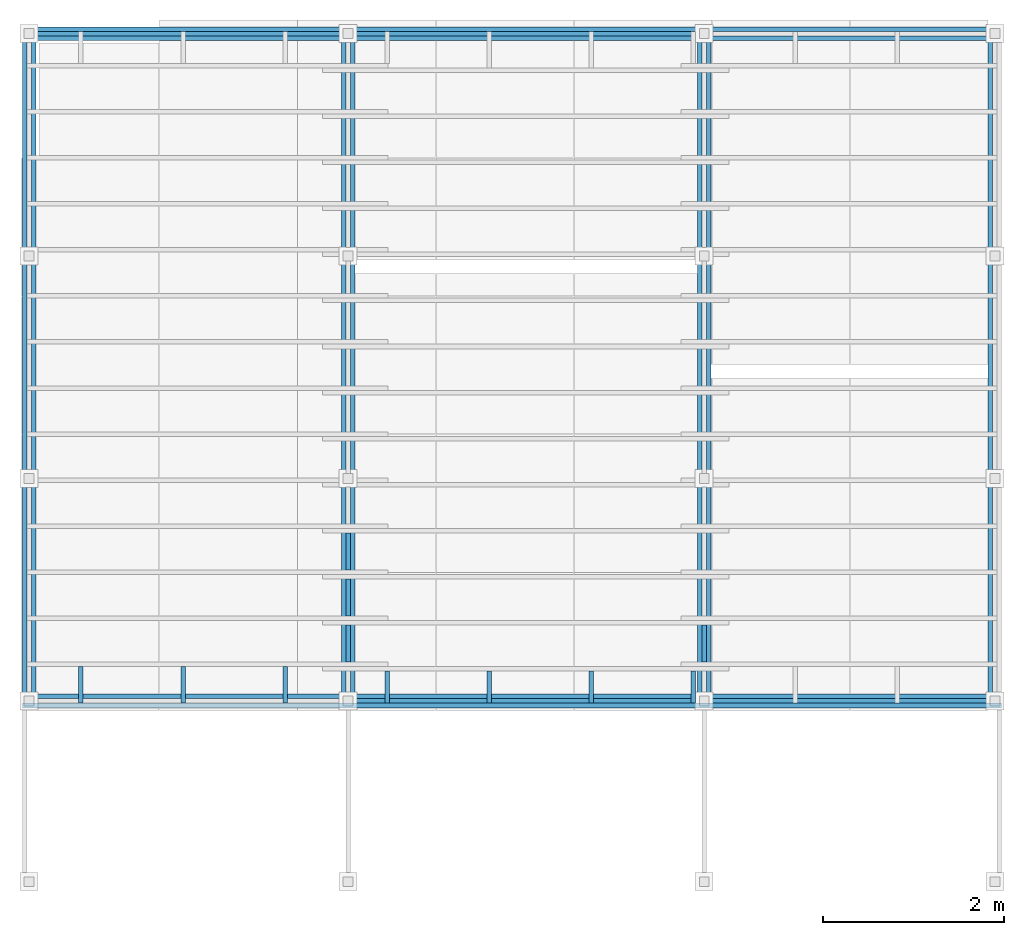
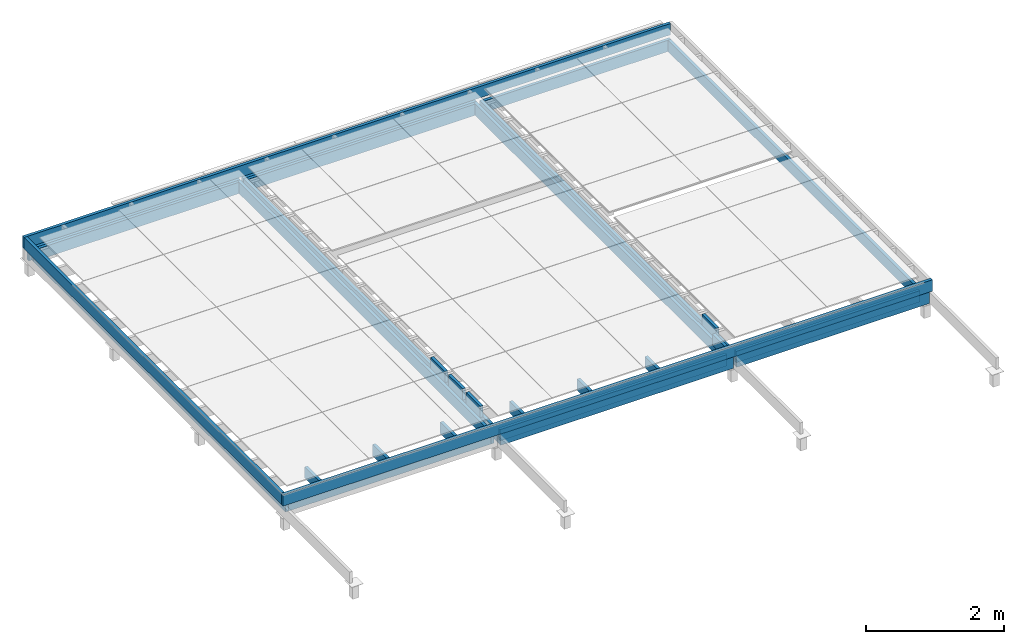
# One storey, part 4 of 5: 32 beams.
"""IFC4 building model written with IfcOpenShell, lengths in millimetres."""

from ifc_helpers import new_model, si_unit, derived_unit, frame, origin_with_axes, place, context, subcontext, project, spatial, polygons, source, transform, mapped, material, type_object, element, save


model = new_model("IFC4")

# Units and contexts
model_context = context("Model", 3, precision=1e-06, world=origin_with_axes())
body_context = subcontext(model_context, "Body", "Model", "MODEL_VIEW")
ifc_project = project(units=[si_unit("LENGTHUNIT", "METRE", prefix="MILLI"), si_unit("AREAUNIT", "SQUARE_METRE"), si_unit("VOLUMEUNIT", "CUBIC_METRE"), si_unit("MASSUNIT", "GRAM", prefix="KILO"), si_unit("ELECTRICVOLTAGEUNIT", "VOLT", prefix="KILO"), si_unit("THERMODYNAMICTEMPERATUREUNIT", "DEGREE_CELSIUS"), si_unit("PRESSUREUNIT", "PASCAL", prefix="MEGA"), si_unit("PLANEANGLEUNIT", "RADIAN"), derived_unit("THERMALCONDUCTANCEUNIT", [(si_unit("POWERUNIT", "WATT"), 1), (si_unit("LENGTHUNIT", "METRE"), -1), (si_unit("THERMODYNAMICTEMPERATUREUNIT", "KELVIN"), -1)]), derived_unit("MASSDENSITYUNIT", [(si_unit("MASSUNIT", "GRAM", prefix="KILO"), 1), (si_unit("VOLUMEUNIT", "CUBIC_METRE"), -1)])], contexts=[model_context])

# Site, building, storey
site_placement = place(None, origin_with_axes())
site = spatial("IfcSite", under=ifc_project, at=site_placement, CompositionType="ELEMENT")
building_placement = place(site_placement, origin_with_axes())
building = spatial("IfcBuilding", under=site, at=building_placement, CompositionType="ELEMENT")
storey_placement = place(building_placement, origin_with_axes())
storey = spatial("IfcBuildingStorey", under=building, at=storey_placement, Name="Ниже 0.00", CompositionType="ELEMENT", Elevation=0.0)

# Beams
ifc_material_1 = material(Name="Древесина светлая")
beam_type = type_object("IfcBeamType", Name="Доска 50х200", PredefinedType="BEAM")
shared_shape_1 = source(origin_with_axes(), body_context, "Body", "Tessellation", [
    polygons([(0.0, -200.0, 0.0), (-50.0, -200.0, 0.0), (-50.0, -200.0, -3532.5), (0.0, -200.0, -3532.5), (-50.0, 0.0, 0.0), (-50.0, 0.0, -3532.5), (0.0, 0.0, 0.0), (0.0, 0.0, -3532.5)], [[[1, 2, 3, 4]], [[2, 5, 6, 3]], [[5, 7, 8, 6]], [[7, 1, 4, 8]], [[4, 3, 6, 8]], [[1, 7, 5, 2]]], closed=True),
])
beam_1_placement = place(storey_placement, frame((3582.500000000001, 7489.999999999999, -200.0), z_axis=(1.0, 0.0, 0.0), x_axis=(0.0, 0.0, 1.0)))
element("IfcBeam", 1, at=beam_1_placement, inside=storey, type_object=beam_type, material=ifc_material_1, Name="Балка - Доска 50х200", context=body_context, shape_type="MappedRepresentation", body=[
    mapped(shared_shape_1, transform((0.0, 0.0, 0.0), x_axis=(0.0, -1.0, 0.0), y_axis=(1.0, 0.0, 0.0), z_axis=(0.0, 0.0, 1.0), scale=1.0)),
])
shared_shape_2 = source(origin_with_axes(), body_context, "Body", "Tessellation", [
    polygons([(0.0, -200.0, 0.0), (-50.0, -200.0, 0.0), (-50.0, -200.0, -3892.5000000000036), (0.0, -200.0, -3892.5000000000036), (-50.0, 0.0, 0.0), (-50.0, 0.0, -3892.5000000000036), (0.0, 0.0, 0.0), (0.0, 0.0, -3892.5000000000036)], [[[1, 2, 3, 4]], [[2, 5, 6, 3]], [[5, 7, 8, 6]], [[7, 1, 4, 8]], [[4, 3, 6, 8]], [[1, 7, 5, 2]]], closed=True),
])
beam_2_placement = place(storey_placement, frame((7525.0000000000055, 7489.999999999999, -200.0), z_axis=(1.0, 0.0, 0.0), x_axis=(0.0, 0.0, 1.0)))
element("IfcBeam", 2, at=beam_2_placement, inside=storey, type_object=beam_type, material=ifc_material_1, Name="Балка - Доска 50х200", context=body_context, shape_type="MappedRepresentation", body=[
    mapped(shared_shape_2, transform((0.0, 0.0, 0.0), x_axis=(0.0, -1.0, 0.0), y_axis=(1.0, 0.0, 0.0), z_axis=(0.0, 0.0, 1.0), scale=1.0)),
])
shared_shape_3 = source(origin_with_axes(), body_context, "Body", "Tessellation", [
    polygons([(7525.0000000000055, 100.00000000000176, -400.0), (7525.0000000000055, 100.00000000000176, -200.0), (7525.0000000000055, 50.00000000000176, -200.0), (7525.0000000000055, 50.00000000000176, -400.0), (3632.500000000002, 100.00000000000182, -400.0), (3632.500000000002, 100.00000000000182, -200.0), (3632.500000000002, 50.00000000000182, -200.0), (3632.500000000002, 50.00000000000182, -400.0)], [[[1, 2, 3, 4]], [[2, 1, 5, 6]], [[3, 2, 6, 7]], [[4, 3, 7, 8]], [[1, 4, 8, 5]], [[5, 8, 7, 6]]], closed=True),
])
beam_3_placement = place(storey_placement, frame((7525.0000000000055, 100.00000000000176, -200.0), z_axis=(1.0, 0.0, 0.0), x_axis=(0.0, 0.0, 1.0)))
element("IfcBeam", 3, at=beam_3_placement, inside=storey, type_object=beam_type, material=ifc_material_1, Name="Балка - Доска 50х200", context=body_context, shape_type="MappedRepresentation", body=[
    mapped(shared_shape_3, transform((200.0, 100.00000000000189, -7525.0000000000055), x_axis=(0.0, 0.0, 1.0), y_axis=(0.0, -1.0, 0.0), z_axis=(1.0, 0.0, 0.0), scale=1.0)),
])
shared_shape_4 = source(origin_with_axes(), body_context, "Body", "Tessellation", [
    polygons([(0.0, -200.0, 0.0), (-50.0, -200.0, 0.0), (-50.0, -200.0, -3169.9999999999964), (0.0, -200.0, -3169.9999999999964), (-50.0, 0.0, 0.0), (-50.0, 0.0, -3169.9999999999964), (0.0, 0.0, 0.0), (0.0, 0.0, -3169.9999999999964)], [[[1, 2, 3, 4]], [[2, 5, 6, 3]], [[5, 7, 8, 6]], [[7, 1, 4, 8]], [[4, 3, 6, 8]], [[1, 7, 5, 2]]], closed=True),
])
beam_4_placement = place(storey_placement, frame((10745.000000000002, 100.00000000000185, -200.0), z_axis=(1.0, 0.0, 0.0), x_axis=(0.0, 0.0, 1.0)))
element("IfcBeam", 4, at=beam_4_placement, inside=storey, type_object=beam_type, material=ifc_material_1, Name="Балка - Доска 50х200", context=body_context, shape_type="MappedRepresentation", body=[
    mapped(shared_shape_4, transform((0.0, 0.0, 0.0), x_axis=(0.0, -1.0, 0.0), y_axis=(1.0, 0.0, 0.0), z_axis=(0.0, 0.0, 1.0), scale=1.0)),
])
shared_shape_5 = source(origin_with_axes(), body_context, "Body", "Tessellation", [
    polygons([(7525.0000000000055, 100.00000000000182, -400.0), (7525.0000000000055, 7439.999999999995, -400.0), (7525.0000000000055, 7439.999999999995, -200.0), (7525.0000000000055, 100.00000000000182, -200.0), (7475.0000000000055, 100.00000000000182, -200.0), (7475.0000000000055, 100.00000000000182, -400.0), (7475.0000000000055, 7439.999999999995, -400.0), (7475.0000000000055, 7439.999999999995, -200.0)], [[[1, 2, 3, 4]], [[4, 5, 6, 1]], [[1, 6, 7, 2]], [[2, 7, 8, 3]], [[5, 4, 3, 8]], [[6, 5, 8, 7]]], closed=True),
])
beam_5_placement = place(storey_placement, frame((7525.0000000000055, 100.00000000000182, -200.0), z_axis=(0.0, -1.0, 0.0), x_axis=(0.0, 0.0, 1.0)))
element("IfcBeam", 5, at=beam_5_placement, inside=storey, type_object=beam_type, material=ifc_material_1, Name="Балка - Доска 50х200", context=body_context, shape_type="MappedRepresentation", body=[
    mapped(shared_shape_5, transform((199.99999999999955, 7525.0000000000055, 100.00000000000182), x_axis=(0.0, -1.0, 0.0), y_axis=(0.0, 0.0, -1.0), z_axis=(1.0, 0.0, 0.0), scale=1.0)),
])
shared_shape_6 = source(origin_with_axes(), body_context, "Body", "Tessellation", [
    polygons([(3582.500000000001, 100.00000000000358, -400.0), (3582.500000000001, 7439.999999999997, -400.0), (3582.500000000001, 7439.999999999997, -200.0), (3582.500000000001, 100.00000000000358, -200.0), (3532.500000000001, 100.00000000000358, -200.0), (3532.500000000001, 100.00000000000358, -400.0), (3532.500000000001, 7439.999999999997, -400.0), (3532.500000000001, 7439.999999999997, -200.0)], [[[1, 2, 3, 4]], [[4, 5, 6, 1]], [[1, 6, 7, 2]], [[2, 7, 8, 3]], [[5, 4, 3, 8]], [[6, 5, 8, 7]]], closed=True),
])
beam_6_placement = place(storey_placement, frame((3582.500000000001, 100.00000000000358, -200.0), z_axis=(0.0, -1.0, 0.0), x_axis=(0.0, 0.0, 1.0)))
element("IfcBeam", 6, at=beam_6_placement, inside=storey, type_object=beam_type, material=ifc_material_1, Name="Балка - Доска 50х200", context=body_context, shape_type="MappedRepresentation", body=[
    mapped(shared_shape_6, transform((199.99999999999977, 3582.500000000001, 100.00000000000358), x_axis=(0.0, -1.0, 0.0), y_axis=(0.0, 0.0, -1.0), z_axis=(1.0, 0.0, 0.0), scale=1.0)),
])
shared_shape_7 = source(origin_with_axes(), body_context, "Body", "Tessellation", [
    polygons([(3682.500000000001, 100.00000000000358, -400.0), (3682.500000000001, 100.00000000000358, -200.0), (3632.500000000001, 100.00000000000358, -200.0), (3632.500000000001, 100.00000000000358, -400.0), (3682.500000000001, 7439.999999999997, -400.0), (3682.500000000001, 7439.999999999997, -200.0), (3632.500000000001, 7439.999999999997, -200.0), (3632.500000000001, 7439.999999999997, -400.0)], [[[1, 2, 3, 4]], [[2, 1, 5, 6]], [[3, 2, 6, 7]], [[4, 3, 7, 8]], [[1, 4, 8, 5]], [[5, 8, 7, 6]]], closed=True),
])
beam_7_placement = place(storey_placement, frame((3682.500000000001, 100.00000000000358, -200.0), z_axis=(0.0, -1.0, 0.0), x_axis=(0.0, 0.0, 1.0)))
element("IfcBeam", 7, at=beam_7_placement, inside=storey, type_object=beam_type, material=ifc_material_1, Name="Балка - Доска 50х200", context=body_context, shape_type="MappedRepresentation", body=[
    mapped(shared_shape_7, transform((199.99999999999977, 3682.500000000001, 100.00000000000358), x_axis=(0.0, -1.0, 0.0), y_axis=(0.0, 0.0, -1.0), z_axis=(1.0, 0.0, 0.0), scale=1.0)),
])
shared_shape_8 = source(origin_with_axes(), body_context, "Body", "Tessellation", [
    polygons([(7625.0000000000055, 100.00000000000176, -400.0), (7625.0000000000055, 100.00000000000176, -200.0), (7575.0000000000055, 100.00000000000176, -200.0), (7575.0000000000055, 100.00000000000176, -400.0), (7625.0000000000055, 7439.999999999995, -400.0), (7625.0000000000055, 7439.999999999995, -200.0), (7575.0000000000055, 7439.999999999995, -200.0), (7575.0000000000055, 7439.999999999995, -400.0)], [[[1, 2, 3, 4]], [[2, 1, 5, 6]], [[3, 2, 6, 7]], [[4, 3, 7, 8]], [[1, 4, 8, 5]], [[5, 8, 7, 6]]], closed=True),
])
beam_8_placement = place(storey_placement, frame((7625.0000000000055, 100.00000000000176, -200.0), z_axis=(0.0, -1.0, 0.0), x_axis=(0.0, 0.0, 1.0)))
element("IfcBeam", 8, at=beam_8_placement, inside=storey, type_object=beam_type, material=ifc_material_1, Name="Балка - Доска 50х200", context=body_context, shape_type="MappedRepresentation", body=[
    mapped(shared_shape_8, transform((199.99999999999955, 7625.0000000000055, 100.00000000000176), x_axis=(0.0, -1.0, 0.0), y_axis=(0.0, 0.0, -1.0), z_axis=(1.0, 0.0, 0.0), scale=1.0)),
])
shared_shape_9 = source(origin_with_axes(), body_context, "Body", "Tessellation", [
    polygons([(0.0, -200.0, 0.0), (-50.0, -200.0, 0.0), (-50.0, -200.0, -3119.9999999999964), (0.0, -200.0, -3119.9999999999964), (-50.0, 0.0, 0.0), (-50.0, 0.0, -3119.9999999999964), (0.0, 0.0, 0.0), (0.0, 0.0, -3119.9999999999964)], [[[1, 2, 3, 4]], [[2, 5, 6, 3]], [[5, 7, 8, 6]], [[7, 1, 4, 8]], [[4, 3, 6, 8]], [[1, 7, 5, 2]]], closed=True),
])
beam_9_placement = place(storey_placement, frame((10745.000000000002, 7439.999999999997, -200.0), z_axis=(1.0, 0.0, 0.0), x_axis=(0.0, 0.0, 1.0)))
element("IfcBeam", 9, at=beam_9_placement, inside=storey, type_object=beam_type, material=ifc_material_1, Name="Балка - Доска 50х200", context=body_context, shape_type="MappedRepresentation", body=[
    mapped(shared_shape_9, transform((0.0, 0.0, 0.0), x_axis=(0.0, -1.0, 0.0), y_axis=(1.0, 0.0, 0.0), z_axis=(0.0, 0.0, 1.0), scale=1.0)),
])
shared_shape_10 = source(origin_with_axes(), body_context, "Body", "Tessellation", [
    polygons([(0.0, -200.0, 0.0), (-50.0, -200.0, 0.0), (-50.0, -200.0, -3792.5000000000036), (0.0, -200.0, -3792.5000000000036), (-50.0, 0.0, 0.0), (-50.0, 0.0, -3792.5000000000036), (0.0, 0.0, 0.0), (0.0, 0.0, -3792.5000000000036)], [[[1, 2, 3, 4]], [[2, 5, 6, 3]], [[5, 7, 8, 6]], [[7, 1, 4, 8]], [[4, 3, 6, 8]], [[1, 7, 5, 2]]], closed=True),
])
beam_10_placement = place(storey_placement, frame((7475.0000000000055, 7439.999999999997, -200.0), z_axis=(1.0, 0.0, 0.0), x_axis=(0.0, 0.0, 1.0)))
element("IfcBeam", 10, at=beam_10_placement, inside=storey, type_object=beam_type, material=ifc_material_1, Name="Балка - Доска 50х200", context=body_context, shape_type="MappedRepresentation", body=[
    mapped(shared_shape_10, transform((0.0, 0.0, 0.0), x_axis=(0.0, -1.0, 0.0), y_axis=(1.0, 0.0, 0.0), z_axis=(0.0, 0.0, 1.0), scale=1.0)),
])
shared_shape_11 = source(origin_with_axes(), body_context, "Body", "Tessellation", [
    polygons([(0.0, -200.0, 0.0), (-50.0, -200.0, 0.0), (-50.0, -200.0, -3432.500000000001), (0.0, -200.0, -3432.500000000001), (-50.0, 0.0, 0.0), (-50.0, 0.0, -3432.500000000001), (0.0, 0.0, 0.0), (0.0, 0.0, -3432.500000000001)], [[[1, 2, 3, 4]], [[2, 5, 6, 3]], [[5, 7, 8, 6]], [[7, 1, 4, 8]], [[4, 3, 6, 8]], [[1, 7, 5, 2]]], closed=True),
])
beam_11_placement = place(storey_placement, frame((3532.500000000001, 7439.999999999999, -200.0), z_axis=(1.0, 1e-15, 0.0), x_axis=(0.0, 0.0, 1.0)))
element("IfcBeam", 11, at=beam_11_placement, inside=storey, type_object=beam_type, material=ifc_material_1, Name="Балка - Доска 50х200", context=body_context, shape_type="MappedRepresentation", body=[
    mapped(shared_shape_11, transform((0.0, 0.0, 0.0), x_axis=(0.0, -1.0, 0.0), y_axis=(1.0, 0.0, 0.0), z_axis=(0.0, 0.0, 1.0), scale=1.0)),
])
shared_shape_12 = source(origin_with_axes(), body_context, "Body", "Tessellation", [
    polygons([(7625.0000000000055, 150.00000000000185, -400.0), (7625.0000000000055, 100.00000000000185, -400.0), (7625.0000000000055, 100.00000000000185, -200.0), (7625.0000000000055, 150.00000000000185, -200.0), (10695.000000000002, 150.00000000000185, -400.0), (10695.000000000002, 100.00000000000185, -400.0), (10695.000000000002, 100.00000000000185, -200.0), (10695.000000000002, 150.00000000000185, -200.0)], [[[1, 2, 3, 4]], [[5, 6, 2, 1]], [[6, 7, 3, 2]], [[7, 8, 4, 3]], [[8, 5, 1, 4]], [[5, 8, 7, 6]]], closed=True),
])
beam_12_placement = place(storey_placement, frame((10695.000000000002, 150.00000000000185, -200.0), z_axis=(1.0, 0.0, 0.0), x_axis=(0.0, 0.0, 1.0)))
element("IfcBeam", 12, at=beam_12_placement, inside=storey, type_object=beam_type, material=ifc_material_1, Name="Балка - Доска 50х200", context=body_context, shape_type="MappedRepresentation", body=[
    mapped(shared_shape_12, transform((200.0, 150.00000000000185, -10695.000000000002), x_axis=(0.0, 0.0, 1.0), y_axis=(0.0, -1.0, 0.0), z_axis=(1.0, 0.0, 0.0), scale=1.0)),
])
shared_shape_13 = source(origin_with_axes(), body_context, "Body", "Tessellation", [
    polygons([(3682.500000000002, 150.00000000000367, -400.0), (3682.500000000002, 100.00000000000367, -400.0), (3682.500000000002, 100.00000000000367, -200.0), (3682.500000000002, 150.00000000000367, -200.0), (7475.0000000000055, 150.00000000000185, -400.0), (7475.0000000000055, 100.00000000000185, -400.0), (7475.0000000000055, 100.00000000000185, -200.0), (7475.0000000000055, 150.00000000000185, -200.0)], [[[1, 2, 3, 4]], [[5, 6, 2, 1]], [[6, 7, 3, 2]], [[7, 8, 4, 3]], [[8, 5, 1, 4]], [[5, 8, 7, 6]]], closed=True),
])
beam_13_placement = place(storey_placement, frame((7475.0000000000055, 150.00000000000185, -200.0), z_axis=(1.0, 0.0, 0.0), x_axis=(0.0, 0.0, 1.0)))
element("IfcBeam", 13, at=beam_13_placement, inside=storey, type_object=beam_type, material=ifc_material_1, Name="Балка - Доска 50х200", context=body_context, shape_type="MappedRepresentation", body=[
    mapped(shared_shape_13, transform((200.0, 150.00000000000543, -7475.0000000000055), x_axis=(0.0, 0.0, 1.0), y_axis=(0.0, -1.0, 0.0), z_axis=(1.0, 0.0, 0.0), scale=1.0)),
])
shared_shape_14 = source(origin_with_axes(), body_context, "Body", "Tessellation", [
    polygons([(150.0, 150.00000000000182, -400.0), (150.0, 100.00000000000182, -400.0), (150.0, 100.00000000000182, -200.0), (150.0, 150.00000000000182, -200.0), (3532.500000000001, 150.00000000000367, -400.0), (3532.500000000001, 100.00000000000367, -400.0), (3532.500000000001, 100.00000000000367, -200.0), (3532.500000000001, 150.00000000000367, -200.0)], [[[1, 2, 3, 4]], [[5, 6, 2, 1]], [[6, 7, 3, 2]], [[7, 8, 4, 3]], [[8, 5, 1, 4]], [[5, 8, 7, 6]]], closed=True),
])
beam_14_placement = place(storey_placement, frame((3532.500000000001, 150.00000000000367, -200.0), z_axis=(1.0, 1e-15, 0.0), x_axis=(0.0, 0.0, 1.0)))
element("IfcBeam", 14, at=beam_14_placement, inside=storey, type_object=beam_type, material=ifc_material_1, Name="Балка - Доска 50х200", context=body_context, shape_type="MappedRepresentation", body=[
    mapped(shared_shape_14, transform((200.0, 150.00000000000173, -3532.500000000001), x_axis=(0.0, 1e-15, 1.0), y_axis=(0.0, -1.0, 1e-15), z_axis=(1.0, 0.0, 0.0), scale=1.0)),
])
shared_shape_15 = source(origin_with_axes(), body_context, "Body", "Tessellation", [
    polygons([(150.00000000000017, 100.00000000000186, -400.0), (150.00000000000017, 100.00000000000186, -200.0), (100.00000000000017, 100.00000000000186, -200.0), (100.00000000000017, 100.00000000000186, -400.0), (150.0, 7389.999999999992, -400.0), (150.0, 7389.999999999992, -200.0), (100.0, 7389.999999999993, -200.0), (100.0, 7389.999999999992, -400.0)], [[[1, 2, 3, 4]], [[2, 1, 5, 6]], [[3, 2, 6, 7]], [[4, 3, 7, 8]], [[1, 4, 8, 5]], [[5, 8, 7, 6]]], closed=True),
])
beam_15_placement = place(storey_placement, frame((150.00000000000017, 100.00000000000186, -200.0), z_axis=(0.0, -1.0, 0.0), x_axis=(0.0, 0.0, 1.0)))
element("IfcBeam", 15, at=beam_15_placement, inside=storey, type_object=beam_type, material=ifc_material_1, Name="Балка - Доска 50х200", context=body_context, shape_type="MappedRepresentation", body=[
    mapped(shared_shape_15, transform((200.0, 150.00000000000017, 100.00000000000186), x_axis=(0.0, -1.0, 0.0), y_axis=(0.0, 0.0, -1.0), z_axis=(1.0, 0.0, 0.0), scale=1.0)),
])
shared_shape_16 = source(origin_with_axes(), body_context, "Body", "Tessellation", [
    polygons([(0.0, -200.0, 0.0), (-50.0, -200.0, 0.0), (-50.0, -200.0, -7289.99999999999), (0.0, -200.0, -7289.99999999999), (-50.0, 0.0, 0.0), (-50.0, 0.0, -7289.999999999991), (0.0, 0.0, 0.0), (0.0, 0.0, -7289.99999999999)], [[[1, 2, 3, 4]], [[2, 5, 6, 3]], [[5, 7, 8, 6]], [[7, 1, 4, 8]], [[4, 3, 6, 8]], [[1, 7, 5, 2]]], closed=True),
])
beam_16_placement = place(storey_placement, frame((10745.000000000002, 100.00000000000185, -200.0), z_axis=(0.0, -1.0, 0.0), x_axis=(0.0, 0.0, 1.0)))
element("IfcBeam", 16, at=beam_16_placement, inside=storey, type_object=beam_type, material=ifc_material_1, Name="Балка - Доска 50х200", context=body_context, shape_type="MappedRepresentation", body=[
    mapped(shared_shape_16, transform((0.0, 0.0, 0.0), x_axis=(0.0, -1.0, 0.0), y_axis=(1.0, 0.0, 0.0), z_axis=(0.0, 0.0, 1.0), scale=1.0)),
])
ifc_material_2 = material(Name="Древесина зел")
shared_shape_17 = source(origin_with_axes(), body_context, "Body", "Tessellation", [
    polygons([(-7e-15, -200.0, 0.0), (-50.00000000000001, -200.0, 0.0), (-50.00000000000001, -200.0, -10845.000000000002), (-7e-15, -200.0, -10845.000000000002), (-49.99999999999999, 2e-15, 0.0), (-49.99999999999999, 2e-15, -10845.000000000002), (7e-15, -2e-15, 0.0), (7e-15, -2e-15, -10845.000000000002)], [[[1, 2, 3, 4]], [[2, 5, 6, 3]], [[5, 7, 8, 6]], [[7, 1, 4, 8]], [[4, 3, 6, 8]], [[1, 7, 5, 2]]], closed=True),
])
beam_17_placement = place(storey_placement, frame((0.0, 0.0, 0.0), z_axis=(-1.0, -1e-15, 0.0), x_axis=(0.0, 0.0, 1.0)))
element("IfcBeam", 17, at=beam_17_placement, inside=storey, type_object=beam_type, material=ifc_material_2, Name="Балка - Доска 50х200", context=body_context, shape_type="MappedRepresentation", body=[
    mapped(shared_shape_17, transform((0.0, 0.0, 0.0), x_axis=(0.0, -1.0, 0.0), y_axis=(1.0, 0.0, 0.0), z_axis=(0.0, 0.0, 1.0), scale=1.0)),
])
shared_shape_18 = source(origin_with_axes(), body_context, "Body", "Tessellation", [
    polygons([(0.0, -200.0, 0.0), (-50.0, -200.0, 0.0), (-50.0, -200.0, -10795.000000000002), (0.0, -200.0, -10795.000000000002), (-50.0, 2e-15, 0.0), (-50.0, 2e-15, -10795.000000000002), (0.0, -2e-15, 0.0), (0.0, -2e-15, -10795.000000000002)], [[[1, 2, 3, 4]], [[2, 5, 6, 3]], [[5, 7, 8, 6]], [[7, 1, 4, 8]], [[4, 3, 6, 8]], [[1, 7, 5, 2]]], closed=True),
])
beam_18_placement = place(storey_placement, frame((10795.000000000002, 7539.999999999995, 0.0), z_axis=(1.0, 0.0, 0.0), x_axis=(0.0, 0.0, 1.0)))
element("IfcBeam", 18, at=beam_18_placement, inside=storey, type_object=beam_type, material=ifc_material_2, Name="Балка - Доска 50х200", context=body_context, shape_type="MappedRepresentation", body=[
    mapped(shared_shape_18, transform((0.0, 0.0, 0.0), x_axis=(0.0, -1.0, 0.0), y_axis=(1.0, 0.0, 0.0), z_axis=(0.0, 0.0, 1.0), scale=1.0)),
])
shared_shape_19 = source(origin_with_axes(), body_context, "Body", "Tessellation", [
    polygons([(-7e-15, -200.0, 0.0), (-50.00000000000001, -200.0, 0.0), (-50.00000000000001, -200.0, -7439.999999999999), (-7e-15, -200.0, -7439.999999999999), (-49.99999999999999, 2e-15, 0.0), (-49.99999999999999, 2e-15, -7439.999999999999), (7e-15, -2e-15, 0.0), (7e-15, -2e-15, -7439.999999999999)], [[[1, 2, 3, 4]], [[2, 5, 6, 3]], [[5, 7, 8, 6]], [[7, 1, 4, 8]], [[4, 3, 6, 8]], [[1, 7, 5, 2]]], closed=True),
])
beam_19_placement = place(storey_placement, frame((0.0, 7489.999999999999, 0.0), z_axis=(0.0, 1.0, 0.0), x_axis=(0.0, 0.0, 1.0)))
element("IfcBeam", 19, at=beam_19_placement, inside=storey, type_object=beam_type, material=ifc_material_2, Name="Балка - Доска 50х200", context=body_context, shape_type="MappedRepresentation", body=[
    mapped(shared_shape_19, transform((0.0, 0.0, 0.0), x_axis=(0.0, -1.0, 0.0), y_axis=(1.0, 0.0, 0.0), z_axis=(0.0, 0.0, 1.0), scale=1.0)),
])
shared_shape_20 = source(origin_with_axes(), body_context, "Body", "Tessellation", [
    polygons([(7405.000000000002, 404.99999999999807, -2e-15), (7405.000000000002, 404.99999999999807, -200.0), (7405.000000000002, 50.000000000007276, -200.0), (7405.000000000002, 50.000000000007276, -2e-15), (7455.000000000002, 404.99999999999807, 1e-15), (7455.000000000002, 50.000000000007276, 2e-15), (7455.000000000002, 404.99999999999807, -200.0), (7455.000000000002, 50.000000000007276, -200.0)], [[[1, 2, 3, 4]], [[5, 1, 4, 6]], [[7, 5, 6, 8]], [[2, 7, 8, 3]], [[7, 2, 1, 5]], [[3, 8, 6, 4]]], closed=True),
])
beam_20_placement = place(storey_placement, frame((7430.000000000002, 404.9999999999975, 0.0), z_axis=(0.0, 1.0, 0.0), x_axis=(0.0, 0.0, 1.0)))
element("IfcBeam", 20, at=beam_20_placement, inside=storey, type_object=beam_type, material=ifc_material_2, Name="Балка - Доска 50х200", context=body_context, shape_type="MappedRepresentation", body=[
    mapped(shared_shape_20, transform((4.55e-13, -7430.000000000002, -404.9999999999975), x_axis=(0.0, 1.0, 0.0), y_axis=(0.0, 0.0, 1.0), z_axis=(1.0, 0.0, 0.0), scale=1.0)),
])
shared_shape_21 = source(origin_with_axes(), body_context, "Body", "Tessellation", [
    polygons([(6275.000000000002, 404.99999999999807, -2e-15), (6275.000000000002, 404.99999999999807, -200.0), (6275.000000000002, 50.000000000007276, -200.0), (6275.000000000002, 50.000000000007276, -2e-15), (6325.000000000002, 404.99999999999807, 1e-15), (6325.000000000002, 50.000000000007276, 2e-15), (6325.000000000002, 404.99999999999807, -200.0), (6325.000000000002, 50.000000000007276, -200.0)], [[[1, 2, 3, 4]], [[5, 1, 4, 6]], [[7, 5, 6, 8]], [[2, 7, 8, 3]], [[7, 2, 1, 5]], [[3, 8, 6, 4]]], closed=True),
])
beam_21_placement = place(storey_placement, frame((6300.000000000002, 404.9999999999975, 0.0), z_axis=(0.0, 1.0, 0.0), x_axis=(0.0, 0.0, 1.0)))
element("IfcBeam", 21, at=beam_21_placement, inside=storey, type_object=beam_type, material=ifc_material_2, Name="Балка - Доска 50х200", context=body_context, shape_type="MappedRepresentation", body=[
    mapped(shared_shape_21, transform((3.86e-13, -6300.000000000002, -404.9999999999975), x_axis=(0.0, 1.0, 0.0), y_axis=(0.0, 0.0, 1.0), z_axis=(1.0, 0.0, 0.0), scale=1.0)),
])
shared_shape_22 = source(origin_with_axes(), body_context, "Body", "Tessellation", [
    polygons([(5145.000000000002, 404.99999999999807, -2e-15), (5145.000000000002, 404.99999999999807, -200.0), (5145.000000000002, 50.000000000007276, -200.0), (5145.000000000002, 50.000000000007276, -2e-15), (5195.000000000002, 404.99999999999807, 1e-15), (5195.000000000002, 50.000000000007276, 2e-15), (5195.000000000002, 404.99999999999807, -200.0), (5195.000000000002, 50.000000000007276, -200.0)], [[[1, 2, 3, 4]], [[5, 1, 4, 6]], [[7, 5, 6, 8]], [[2, 7, 8, 3]], [[7, 2, 1, 5]], [[3, 8, 6, 4]]], closed=True),
])
beam_22_placement = place(storey_placement, frame((5170.000000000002, 404.9999999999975, 0.0), z_axis=(0.0, 1.0, 0.0), x_axis=(0.0, 0.0, 1.0)))
element("IfcBeam", 22, at=beam_22_placement, inside=storey, type_object=beam_type, material=ifc_material_2, Name="Балка - Доска 50х200", context=body_context, shape_type="MappedRepresentation", body=[
    mapped(shared_shape_22, transform((3.17e-13, -5170.000000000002, -404.9999999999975), x_axis=(0.0, 1.0, 0.0), y_axis=(0.0, 0.0, 1.0), z_axis=(1.0, 0.0, 0.0), scale=1.0)),
])
shared_shape_23 = source(origin_with_axes(), body_context, "Body", "Tessellation", [
    polygons([(4015.000000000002, 404.9999999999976, -2e-15), (4015.000000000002, 404.9999999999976, -200.0), (4015.000000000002, 50.000000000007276, -200.0), (4015.000000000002, 50.000000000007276, -2e-15), (4065.000000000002, 404.99999999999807, 1e-15), (4065.000000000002, 50.000000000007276, 2e-15), (4065.000000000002, 404.9999999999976, -200.0), (4065.000000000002, 50.000000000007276, -200.0)], [[[1, 2, 3, 4]], [[5, 1, 4, 6]], [[7, 5, 6, 8]], [[2, 7, 8, 3]], [[7, 2, 1, 5]], [[3, 8, 6, 4]]], closed=True),
])
beam_23_placement = place(storey_placement, frame((4040.000000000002, 404.9999999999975, 0.0), z_axis=(0.0, 1.0, 0.0), x_axis=(0.0, 0.0, 1.0)))
element("IfcBeam", 23, at=beam_23_placement, inside=storey, type_object=beam_type, material=ifc_material_2, Name="Балка - Доска 50х200", context=body_context, shape_type="MappedRepresentation", body=[
    mapped(shared_shape_23, transform((2.47e-13, -4040.000000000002, -404.9999999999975), x_axis=(0.0, 1.0, 0.0), y_axis=(0.0, 0.0, 1.0), z_axis=(1.0, 0.0, 0.0), scale=1.0)),
])
shared_shape_24 = source(origin_with_axes(), body_context, "Body", "Tessellation", [
    polygons([(2885.000000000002, 454.9999999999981, -3e-15), (2885.000000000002, 454.9999999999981, -200.0), (2885.000000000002, 50.000000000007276, -200.0), (2885.000000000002, 50.000000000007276, -2e-15), (2935.000000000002, 454.9999999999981, 0.0), (2935.000000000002, 50.000000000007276, 2e-15), (2935.000000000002, 454.9999999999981, -200.0), (2935.000000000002, 50.000000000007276, -200.0)], [[[1, 2, 3, 4]], [[5, 1, 4, 6]], [[7, 5, 6, 8]], [[2, 7, 8, 3]], [[7, 2, 1, 5]], [[3, 8, 6, 4]]], closed=True),
])
beam_24_placement = place(storey_placement, frame((2910.000000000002, 454.9999999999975, -2e-15), z_axis=(0.0, 1.0, 0.0), x_axis=(0.0, 0.0, 1.0)))
element("IfcBeam", 24, at=beam_24_placement, inside=storey, type_object=beam_type, material=ifc_material_2, Name="Балка - Доска 50х200", context=body_context, shape_type="MappedRepresentation", body=[
    mapped(shared_shape_24, transform((1.78e-13, -2910.000000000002, -454.9999999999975), x_axis=(0.0, 1.0, 0.0), y_axis=(0.0, 0.0, 1.0), z_axis=(1.0, 0.0, 0.0), scale=1.0)),
])
shared_shape_25 = source(origin_with_axes(), body_context, "Body", "Tessellation", [
    polygons([(1755.0000000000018, 454.9999999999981, -3e-15), (1755.0000000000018, 454.9999999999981, -200.0), (1755.0000000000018, 50.000000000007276, -200.0), (1755.0000000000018, 50.000000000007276, -2e-15), (1805.0000000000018, 454.9999999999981, 0.0), (1805.0000000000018, 50.000000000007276, 2e-15), (1805.0000000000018, 454.9999999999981, -200.0), (1805.0000000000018, 50.000000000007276, -200.0)], [[[1, 2, 3, 4]], [[5, 1, 4, 6]], [[7, 5, 6, 8]], [[2, 7, 8, 3]], [[7, 2, 1, 5]], [[3, 8, 6, 4]]], closed=True),
])
beam_25_placement = place(storey_placement, frame((1780.0000000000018, 454.9999999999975, -2e-15), z_axis=(0.0, 1.0, 0.0), x_axis=(0.0, 0.0, 1.0)))
element("IfcBeam", 25, at=beam_25_placement, inside=storey, type_object=beam_type, material=ifc_material_2, Name="Балка - Доска 50х200", context=body_context, shape_type="MappedRepresentation", body=[
    mapped(shared_shape_25, transform((1.09e-13, -1780.0000000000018, -454.9999999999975), x_axis=(0.0, 1.0, 0.0), y_axis=(0.0, 0.0, 1.0), z_axis=(1.0, 0.0, 0.0), scale=1.0)),
])
shared_shape_26 = source(origin_with_axes(), body_context, "Body", "Tessellation", [
    polygons([(625.0000000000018, 454.99999999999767, -3e-15), (625.0000000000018, 454.99999999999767, -200.0), (625.0000000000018, 50.000000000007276, -200.0), (625.0000000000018, 50.000000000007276, -2e-15), (675.0000000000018, 454.9999999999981, 0.0), (675.0000000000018, 50.000000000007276, 2e-15), (675.0000000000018, 454.99999999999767, -200.0), (675.0000000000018, 50.000000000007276, -200.0)], [[[1, 2, 3, 4]], [[5, 1, 4, 6]], [[7, 5, 6, 8]], [[2, 7, 8, 3]], [[7, 2, 1, 5]], [[3, 8, 6, 4]]], closed=True),
])
beam_26_placement = place(storey_placement, frame((650.0000000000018, 454.9999999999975, -2e-15), z_axis=(0.0, 1.0, 0.0), x_axis=(0.0, 0.0, 1.0)))
element("IfcBeam", 26, at=beam_26_placement, inside=storey, type_object=beam_type, material=ifc_material_2, Name="Балка - Доска 50х200", context=body_context, shape_type="MappedRepresentation", body=[
    mapped(shared_shape_26, transform((4e-14, -650.0000000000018, -454.9999999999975), x_axis=(0.0, 1.0, 0.0), y_axis=(0.0, 0.0, 1.0), z_axis=(1.0, 0.0, 0.0), scale=1.0)),
])
shared_shape_27 = source(origin_with_axes(), body_context, "Body", "Tessellation", [
    polygons([(3582.5000000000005, 1934.999999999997, -3e-15), (3582.5000000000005, 1934.999999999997, -200.0), (3582.5000000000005, 1524.9999999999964, -200.0), (3582.5000000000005, 1524.9999999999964, -2e-15), (3632.5000000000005, 1934.999999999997, 0.0), (3632.5000000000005, 1524.9999999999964, 2e-15), (3632.5000000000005, 1934.999999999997, -200.0), (3632.5000000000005, 1524.9999999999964, -200.0)], [[[1, 2, 3, 4]], [[5, 1, 4, 6]], [[7, 5, 6, 8]], [[2, 7, 8, 3]], [[7, 2, 1, 5]], [[3, 8, 6, 4]]], closed=True),
])
beam_27_placement = place(storey_placement, frame((3607.5000000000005, 1934.9999999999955, 0.0), z_axis=(0.0, 1.0, 0.0), x_axis=(0.0, 0.0, 1.0)))
element("IfcBeam", 27, at=beam_27_placement, inside=storey, type_object=beam_type, material=ifc_material_2, Name="Балка - Доска 50х200", context=body_context, shape_type="MappedRepresentation", body=[
    mapped(shared_shape_27, transform((2.21e-13, -3607.5000000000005, -1934.9999999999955), x_axis=(0.0, 1.0, 0.0), y_axis=(0.0, 0.0, 1.0), z_axis=(1.0, 0.0, 0.0), scale=1.0)),
])
shared_shape_28 = source(origin_with_axes(), body_context, "Body", "Tessellation", [
    polygons([(3582.5000000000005, 1424.999999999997, -3e-15), (3582.5000000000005, 1424.999999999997, -200.0), (3582.5000000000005, 1014.9999999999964, -200.0), (3582.5000000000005, 1014.9999999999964, -2e-15), (3632.5000000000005, 1424.999999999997, 0.0), (3632.5000000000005, 1014.9999999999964, 2e-15), (3632.5000000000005, 1424.999999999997, -200.0), (3632.5000000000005, 1014.9999999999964, -200.0)], [[[1, 2, 3, 4]], [[5, 1, 4, 6]], [[7, 5, 6, 8]], [[2, 7, 8, 3]], [[7, 2, 1, 5]], [[3, 8, 6, 4]]], closed=True),
])
beam_28_placement = place(storey_placement, frame((3607.5000000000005, 1424.9999999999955, 0.0), z_axis=(0.0, 1.0, 0.0), x_axis=(0.0, 0.0, 1.0)))
element("IfcBeam", 28, at=beam_28_placement, inside=storey, type_object=beam_type, material=ifc_material_2, Name="Балка - Доска 50х200", context=body_context, shape_type="MappedRepresentation", body=[
    mapped(shared_shape_28, transform((2.21e-13, -3607.5000000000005, -1424.9999999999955), x_axis=(0.0, 1.0, 0.0), y_axis=(0.0, 0.0, 1.0), z_axis=(1.0, 0.0, 0.0), scale=1.0)),
])
shared_shape_29 = source(origin_with_axes(), body_context, "Body", "Tessellation", [
    polygons([(7525.0000000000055, 914.999999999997, -2e-15), (7525.0000000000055, 914.999999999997, -200.0), (7525.0000000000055, 504.99999999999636, -200.0), (7525.0000000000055, 504.99999999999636, -2e-15), (7575.0000000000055, 914.999999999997, 1e-15), (7575.0000000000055, 504.99999999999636, 2e-15), (7575.0000000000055, 914.999999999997, -200.0), (7575.0000000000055, 504.99999999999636, -200.0)], [[[1, 2, 3, 4]], [[5, 1, 4, 6]], [[7, 5, 6, 8]], [[2, 7, 8, 3]], [[7, 2, 1, 5]], [[3, 8, 6, 4]]], closed=True),
])
beam_29_placement = place(storey_placement, frame((7550.0000000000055, 914.9999999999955, 2e-15), z_axis=(0.0, 1.0, 0.0), x_axis=(0.0, 0.0, 1.0)))
element("IfcBeam", 29, at=beam_29_placement, inside=storey, type_object=beam_type, material=ifc_material_2, Name="Балка - Доска 50х200", context=body_context, shape_type="MappedRepresentation", body=[
    mapped(shared_shape_29, transform((4.64e-13, -7550.0000000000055, -914.9999999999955), x_axis=(0.0, 1.0, 0.0), y_axis=(0.0, 0.0, 1.0), z_axis=(1.0, 0.0, 0.0), scale=1.0)),
])
shared_shape_30 = source(origin_with_axes(), body_context, "Body", "Tessellation", [
    polygons([(3582.5000000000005, 914.999999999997, -3e-15), (3582.5000000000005, 914.999999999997, -200.0), (3582.5000000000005, 504.99999999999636, -200.0), (3582.5000000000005, 504.99999999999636, -2e-15), (3632.5000000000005, 914.999999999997, 0.0), (3632.5000000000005, 504.99999999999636, 2e-15), (3632.5000000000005, 914.999999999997, -200.0), (3632.5000000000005, 504.99999999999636, -200.0)], [[[1, 2, 3, 4]], [[5, 1, 4, 6]], [[7, 5, 6, 8]], [[2, 7, 8, 3]], [[7, 2, 1, 5]], [[3, 8, 6, 4]]], closed=True),
])
beam_30_placement = place(storey_placement, frame((3607.5000000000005, 914.9999999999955, 0.0), z_axis=(0.0, 1.0, 0.0), x_axis=(0.0, 0.0, 1.0)))
element("IfcBeam", 30, at=beam_30_placement, inside=storey, type_object=beam_type, material=ifc_material_2, Name="Балка - Доска 50х200", context=body_context, shape_type="MappedRepresentation", body=[
    mapped(shared_shape_30, transform((2.21e-13, -3607.5000000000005, -914.9999999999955), x_axis=(0.0, 1.0, 0.0), y_axis=(0.0, 0.0, 1.0), z_axis=(1.0, 0.0, 0.0), scale=1.0)),
])
shared_shape_31 = source(origin_with_axes(), body_context, "Body", "Tessellation", [
    polygons([(7525.0000000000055, 50.00000000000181, -400.0), (7525.0000000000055, 50.00000000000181, -200.0), (7525.0000000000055, 1.812e-12, -200.0), (7525.0000000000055, 1.812e-12, -400.0), (3632.500000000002, 50.00000000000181, -400.0), (3632.500000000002, 50.00000000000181, -200.0), (3632.500000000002, 1.812e-12, -200.0), (3632.500000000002, 1.812e-12, -400.0)], [[[1, 2, 3, 4]], [[2, 1, 5, 6]], [[3, 2, 6, 7]], [[4, 3, 7, 8]], [[1, 4, 8, 5]], [[5, 8, 7, 6]]], closed=True),
])
beam_31_placement = place(storey_placement, frame((7525.0000000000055, 50.00000000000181, -200.0), z_axis=(1.0, 0.0, 0.0), x_axis=(0.0, 0.0, 1.0)))
element("IfcBeam", 31, at=beam_31_placement, inside=storey, type_object=beam_type, material=ifc_material_1, Name="Балка - Доска 50х200", context=body_context, shape_type="MappedRepresentation", body=[
    mapped(shared_shape_31, transform((200.0, 50.000000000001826, -7525.0000000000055), x_axis=(0.0, 0.0, 1.0), y_axis=(0.0, -1.0, 0.0), z_axis=(1.0, 0.0, 0.0), scale=1.0)),
])
shared_shape_32 = source(origin_with_axes(), body_context, "Body", "Tessellation", [
    polygons([(0.0, -200.0, 0.0), (-50.0, -200.0, 0.0), (-50.0, -200.0, -3219.9999999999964), (0.0, -200.0, -3219.9999999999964), (-50.0, 0.0, 0.0), (-50.0, 0.0, -3219.9999999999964), (0.0, 0.0, 0.0), (0.0, 0.0, -3219.9999999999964)], [[[1, 2, 3, 4]], [[2, 5, 6, 3]], [[5, 7, 8, 6]], [[7, 1, 4, 8]], [[4, 3, 6, 8]], [[1, 7, 5, 2]]], closed=True),
])
beam_32_placement = place(storey_placement, frame((10795.000000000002, 50.00000000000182, -200.0), z_axis=(1.0, 0.0, 0.0), x_axis=(0.0, 0.0, 1.0)))
element("IfcBeam", 32, at=beam_32_placement, inside=storey, type_object=beam_type, material=ifc_material_1, Name="Балка - Доска 50х200", context=body_context, shape_type="MappedRepresentation", body=[
    mapped(shared_shape_32, transform((0.0, 0.0, 0.0), x_axis=(0.0, -1.0, 0.0), y_axis=(1.0, 0.0, 0.0), z_axis=(0.0, 0.0, 1.0), scale=1.0)),
])

save(model, "model.ifc")
